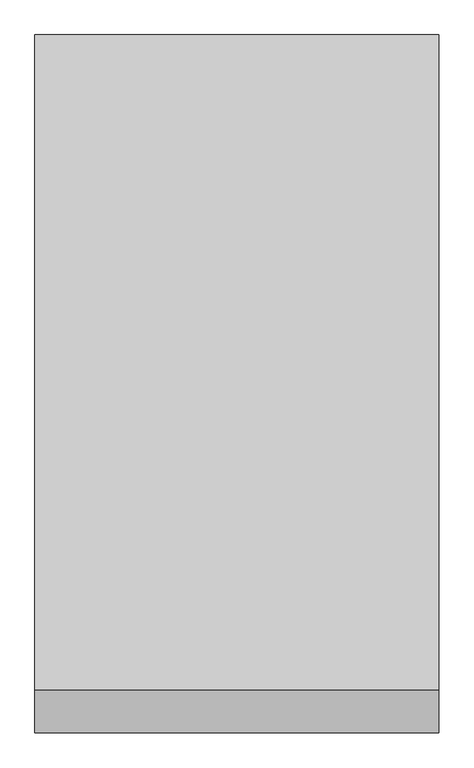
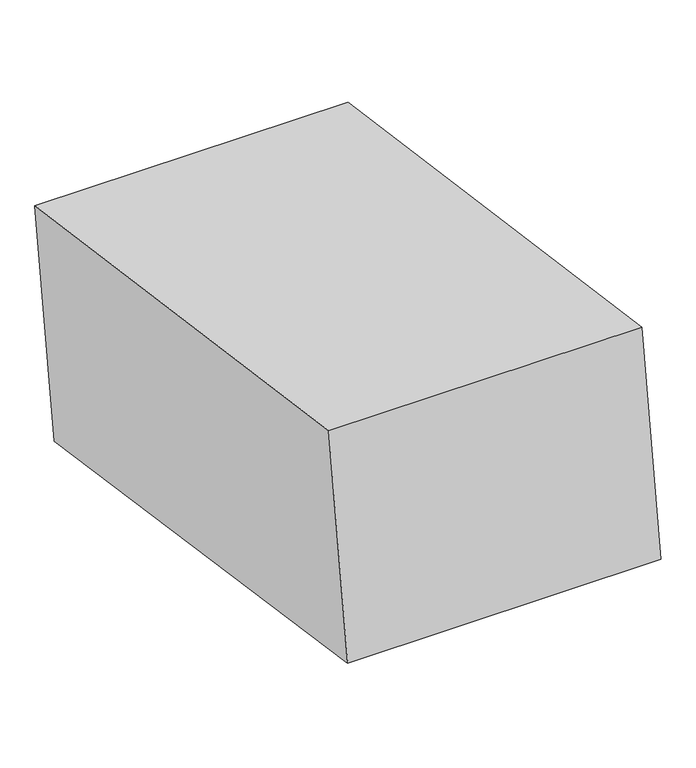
"""IFC4 building model written with IfcOpenShell, lengths in millimetres: proxy geometry, Excavation FamilySP : Excavation FamilySP."""

from ifc_helpers import new_model, si_unit, frame, origin, place, context, project, spatial, polyline, outline, extrude, source, transform, mapped, element, save


def generic_models_b21d599f(model_context):
    return source(origin(), model_context, "Body", "SweptSolid", [
        extrude(outline(polyline([(322.8120898, 2223.2237037), (0.0, 0.0), (-4948.1114547, 718.4658012), (-4629.430297, 2913.2395599), (322.8120898, 2223.2237037)])), frame((-1524.0, 0.0, 0.0), z_axis=(1.0, 0.0, 0.0), x_axis=(0.0, 1.0, 0.0)), (0.0, 0.0, 1.0), 3048.0),
    ])


if __name__ == "__main__":
    model = new_model("IFC4")
    model_context = context("Model", 3, world=origin())
    ifc_project = project(units=[si_unit("LENGTHUNIT", "METRE", prefix="MILLI")], contexts=[model_context])
    site = spatial("IfcSite", under=ifc_project)
    building = spatial("IfcBuilding", under=site)
    placement = place(None, origin())
    generic_models_shape = generic_models_b21d599f(model_context)
    element("IfcBuildingElementProxy", 1, Name="Excavation FamilySP : Excavation FamilySP", ObjectType="Excavation FamilySP : Excavation FamilySP", at=placement, inside=building, context=model_context, shape_type="MappedRepresentation", body=[
        mapped(generic_models_shape, transform((0.0, 0.0, 0.0), x_axis=(1.0, 0.0, 0.0), y_axis=(0.0, 1.0, 0.0), z_axis=(0.0, 0.0, 1.0))),
    ])
    save(model, "model.ifc")
